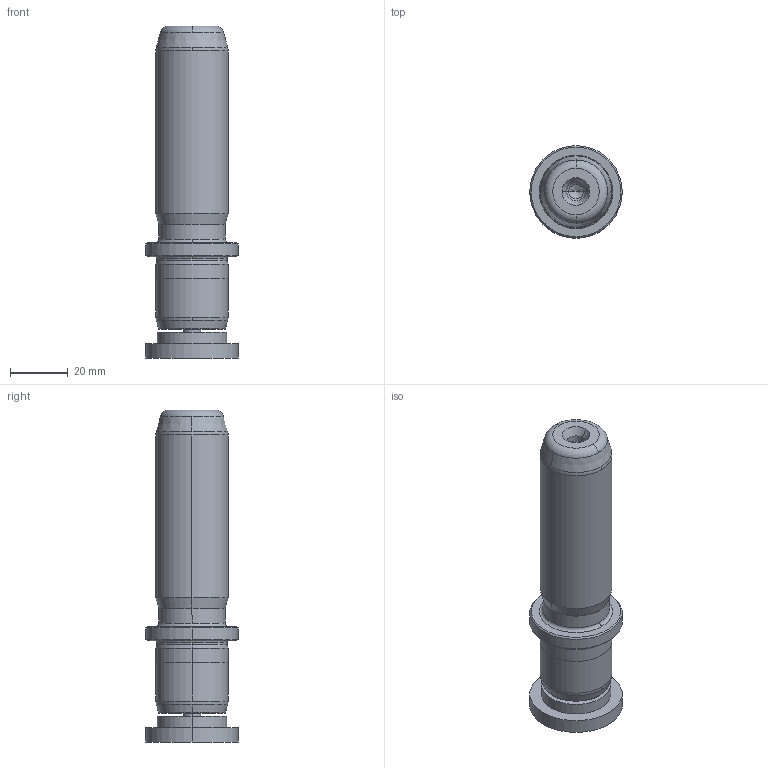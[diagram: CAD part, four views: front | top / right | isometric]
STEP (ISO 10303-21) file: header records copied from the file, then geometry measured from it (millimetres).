
FILE_DESCRIPTION((''),'2;1');
FILE_NAME('P22_025_080.stp','2009-02-02T15:32:02',(''),(''),'Mechanical Desktop 2009','Mechanical Desktop 2009',', , ');
FILE_SCHEMA(('CONFIG_CONTROL_DESIGN'));
Length unit declared in the file: millimetre
Products named in the file (2): Product; blmdl1
Assembly tree (1 placements, depth 2):
  Product
    blmdl1
Bounding box: 32 x 32 x 115 mm (x, y, z)
Volume: 56433.4 mm3; surface area: 13559.2 mm2
Topology: 3 solids, 3 shells, 99 faces, 237 edges, 149 vertices
Faces by surface type: cylinder 32, cone 28, plane 19, torus 10, bspline 10
Entity records: 3419 total; most frequent: CARTESIAN_POINT 923, DIRECTION 570, ORIENTED_EDGE 466, AXIS2_PLACEMENT_3D 246, EDGE_CURVE 233, CIRCLE 155, VERTEX_POINT 149, EDGE_LOOP 110
